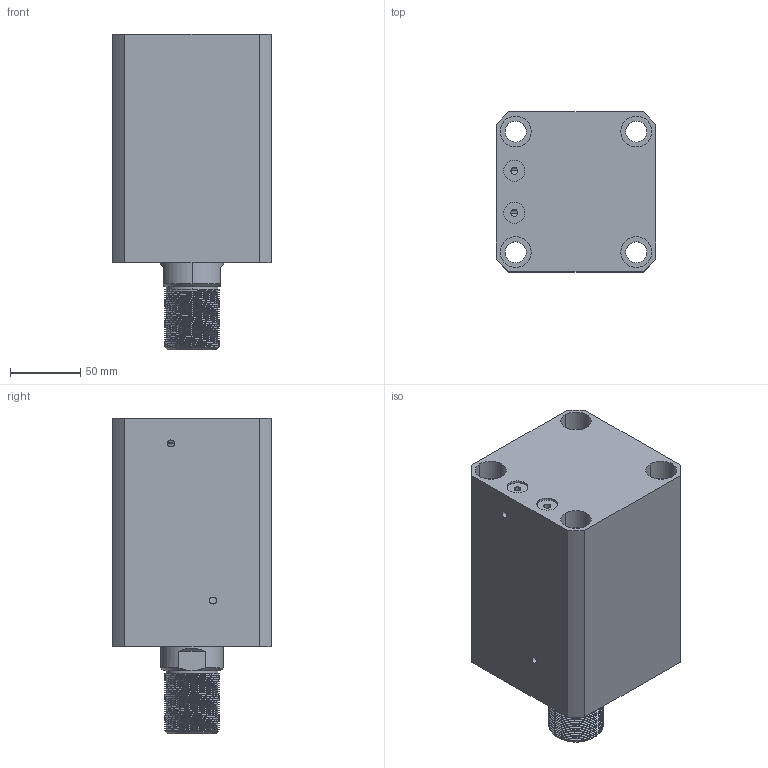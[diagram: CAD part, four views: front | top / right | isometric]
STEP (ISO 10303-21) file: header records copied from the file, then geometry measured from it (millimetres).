
FILE_DESCRIPTION (( 'STEP AP214' ), '1' );
FILE_NAME ('chtb-sdmb80x85w_asm.STEP', '2018-05-26T02:19:41', ( 'Windows' ), ( 'Microsoft' ), 'SwSTEP 2.0', 'SolidWorks 2015', '' );
FILE_SCHEMA (( 'AUTOMOTIVE_DESIGN' ));
Length unit declared in the file: millimetre
Products named in the file (4): CHTB-SDMB80X85NBT; CHTB-SD80X85WHSG; CHTB-SD80QG; chtb-sdmb80x85w_asm
Assembly tree (3 placements, depth 2):
  chtb-sdmb80x85w_asm
    CHTB-SD80QG
    CHTB-SD80X85WHSG
    CHTB-SDMB80X85NBT
Bounding box: 114 x 114 x 225 mm (x, y, z)
Volume: 1718927.3 mm3; surface area: 244058.7 mm2
Topology: 3 solids, 3 shells, 251 faces, 695 edges, 466 vertices
Faces by surface type: cylinder 163, plane 38, torus 18, bspline 16, cone 16
Entity records: 20297 total; most frequent: CARTESIAN_POINT 14321, ORIENTED_EDGE 1382, DIRECTION 1068, EDGE_CURVE 691, VERTEX_POINT 466, AXIS2_PLACEMENT_3D 433, EDGE_LOOP 289, FACE_OUTER_BOUND 251
